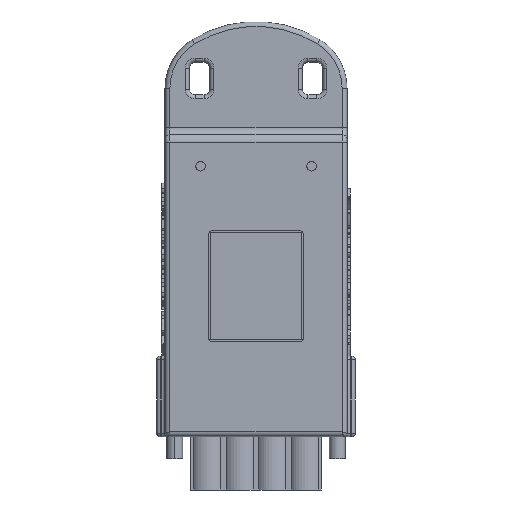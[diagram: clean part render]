
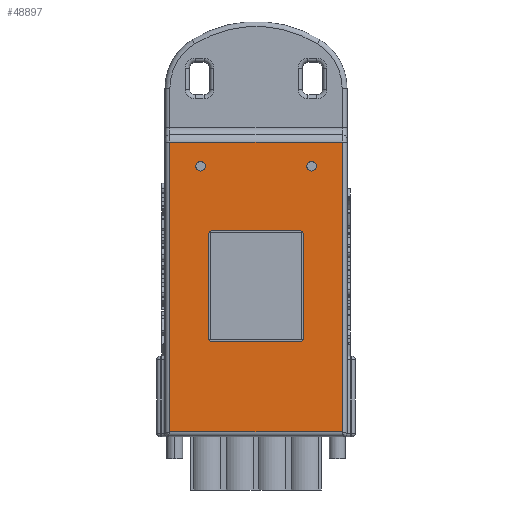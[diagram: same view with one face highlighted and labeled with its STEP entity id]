
A CAD part, front view. The second image highlights one B-rep face of the part: STEP entity #48897.
In plain terms, the highlighted planar face has unit normal (0, -1, 0).
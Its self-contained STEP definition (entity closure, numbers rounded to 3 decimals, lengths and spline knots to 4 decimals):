
#3871=DIRECTION('',(-1.,0.,0.));
#3872=VECTOR('',#3871,1.0581);
#3873=CARTESIAN_POINT('',(0.5291,-0.12,0.8345));
#3874=LINE('',#3873,#3872);
#3875=DIRECTION('',(0.,0.,-1.));
#3876=VECTOR('',#3875,1.7785);
#3877=CARTESIAN_POINT('',(0.5291,-0.12,0.8345));
#3878=LINE('',#3877,#3876);
#3879=DIRECTION('',(1.,0.,0.));
#3880=VECTOR('',#3879,1.0581);
#3881=CARTESIAN_POINT('',(-0.5291,-0.12,-0.944));
#3882=LINE('',#3881,#3880);
#3883=DIRECTION('',(0.,0.,1.));
#3884=VECTOR('',#3883,1.7785);
#3885=CARTESIAN_POINT('',(-0.5291,-0.12,-0.944));
#3886=LINE('',#3885,#3884);
#3887=CARTESIAN_POINT('',(0.3413,-0.12,0.6871));
#3888=DIRECTION('',(0.,-1.,0.));
#3889=DIRECTION('',(0.,0.,-1.));
#3890=AXIS2_PLACEMENT_3D('',#3887,#3888,#3889);
#3892=CARTESIAN_POINT('',(0.3413,-0.12,0.6871));
#3893=DIRECTION('',(0.,-1.,0.));
#3894=DIRECTION('',(0.,0.,1.));
#3895=AXIS2_PLACEMENT_3D('',#3892,#3893,#3894);
#3897=CARTESIAN_POINT('',(-0.3407,-0.12,0.6871));
#3898=DIRECTION('',(0.,-1.,0.));
#3899=DIRECTION('',(0.,0.,-1.));
#3900=AXIS2_PLACEMENT_3D('',#3897,#3898,#3899);
#3902=CARTESIAN_POINT('',(-0.3407,-0.12,0.6871));
#3903=DIRECTION('',(0.,-1.,0.));
#3904=DIRECTION('',(0.,0.,1.));
#3905=AXIS2_PLACEMENT_3D('',#3902,#3903,#3904);
#3907=DIRECTION('',(0.,0.,-1.));
#3908=VECTOR('',#3907,0.64);
#3909=CARTESIAN_POINT('',(-0.29,-0.12,0.27));
#3910=LINE('',#3909,#3908);
#3911=DIRECTION('',(1.,0.,0.));
#3912=VECTOR('',#3911,0.54);
#3913=CARTESIAN_POINT('',(-0.27,-0.12,-0.39));
#3914=LINE('',#3913,#3912);
#3915=DIRECTION('',(0.,0.,1.));
#3916=VECTOR('',#3915,0.64);
#3917=CARTESIAN_POINT('',(0.29,-0.12,-0.37));
#3918=LINE('',#3917,#3916);
#3919=DIRECTION('',(-1.,0.,0.));
#3920=VECTOR('',#3919,0.54);
#3921=CARTESIAN_POINT('',(0.27,-0.12,0.29));
#3922=LINE('',#3921,#3920);
#5614=CARTESIAN_POINT('',(-0.27,-0.12,0.27));
#5615=DIRECTION('',(0.,1.,0.));
#5616=DIRECTION('',(-1.,0.,0.));
#5617=AXIS2_PLACEMENT_3D('',#5614,#5615,#5616);
#5627=CARTESIAN_POINT('',(0.27,-0.12,0.27));
#5628=DIRECTION('',(0.,1.,0.));
#5629=DIRECTION('',(0.,0.,1.));
#5630=AXIS2_PLACEMENT_3D('',#5627,#5628,#5629);
#5692=CARTESIAN_POINT('',(0.27,-0.12,-0.37));
#5693=DIRECTION('',(0.,1.,0.));
#5694=DIRECTION('',(1.,0.,0.));
#5695=AXIS2_PLACEMENT_3D('',#5692,#5693,#5694);
#5705=CARTESIAN_POINT('',(-0.27,-0.12,-0.37));
#5706=DIRECTION('',(0.,1.,0.));
#5707=DIRECTION('',(0.,0.,-1.));
#5708=AXIS2_PLACEMENT_3D('',#5705,#5706,#5707);
#36563=CARTESIAN_POINT('',(0.5291,-0.12,0.8345));
#36564=CARTESIAN_POINT('',(-0.5291,-0.12,0.8345));
#36565=VERTEX_POINT('',#36563);
#36566=VERTEX_POINT('',#36564);
#43563=CARTESIAN_POINT('',(-0.29,-0.12,0.27));
#43564=CARTESIAN_POINT('',(-0.27,-0.12,0.29));
#43565=VERTEX_POINT('',#43563);
#43566=VERTEX_POINT('',#43564);
#43765=CARTESIAN_POINT('',(-0.5291,-0.12,-0.944));
#43766=CARTESIAN_POINT('',(0.5291,-0.12,-0.944));
#43767=VERTEX_POINT('',#43765);
#43768=VERTEX_POINT('',#43766);
#43803=CARTESIAN_POINT('',(-0.27,-0.12,-0.39));
#43804=VERTEX_POINT('',#43803);
#43805=CARTESIAN_POINT('',(-0.29,-0.12,-0.37));
#43806=VERTEX_POINT('',#43805);
#43811=CARTESIAN_POINT('',(0.29,-0.12,-0.37));
#43812=VERTEX_POINT('',#43811);
#43813=CARTESIAN_POINT('',(0.27,-0.12,-0.39));
#43814=VERTEX_POINT('',#43813);
#43819=CARTESIAN_POINT('',(0.27,-0.12,0.29));
#43820=VERTEX_POINT('',#43819);
#43821=CARTESIAN_POINT('',(0.29,-0.12,0.27));
#43822=VERTEX_POINT('',#43821);
#45203=CARTESIAN_POINT('',(0.3413,-0.12,0.6576));
#45204=CARTESIAN_POINT('',(0.3413,-0.12,0.7166));
#45205=VERTEX_POINT('',#45203);
#45206=VERTEX_POINT('',#45204);
#45207=CARTESIAN_POINT('',(-0.3407,-0.12,0.6576));
#45208=CARTESIAN_POINT('',(-0.3407,-0.12,0.7166));
#45209=VERTEX_POINT('',#45207);
#45210=VERTEX_POINT('',#45208);
#48854=CARTESIAN_POINT('',(0.,-0.12,-0.05));
#48855=DIRECTION('',(0.,1.,0.));
#48856=DIRECTION('',(1.,0.,0.));
#48857=AXIS2_PLACEMENT_3D('',#48854,#48855,#48856);
#48858=PLANE('',#48857);
#48860=ORIENTED_EDGE('',*,*,#48859,.F.);
#48861=ORIENTED_EDGE('',*,*,#48846,.T.);
#48862=ORIENTED_EDGE('',*,*,#46763,.F.);
#48864=ORIENTED_EDGE('',*,*,#48863,.T.);
#48865=EDGE_LOOP('',(#48860,#48861,#48862,#48864));
#48866=FACE_OUTER_BOUND('',#48865,.F.);
#48868=ORIENTED_EDGE('',*,*,#48867,.T.);
#48870=ORIENTED_EDGE('',*,*,#48869,.T.);
#48871=EDGE_LOOP('',(#48868,#48870));
#48872=FACE_BOUND('',#48871,.F.);
#48874=ORIENTED_EDGE('',*,*,#48873,.T.);
#48876=ORIENTED_EDGE('',*,*,#48875,.T.);
#48877=EDGE_LOOP('',(#48874,#48876));
#48878=FACE_BOUND('',#48877,.F.);
#48880=ORIENTED_EDGE('',*,*,#48879,.T.);
#48882=ORIENTED_EDGE('',*,*,#48881,.F.);
#48884=ORIENTED_EDGE('',*,*,#48883,.T.);
#48886=ORIENTED_EDGE('',*,*,#48885,.F.);
#48888=ORIENTED_EDGE('',*,*,#48887,.T.);
#48890=ORIENTED_EDGE('',*,*,#48889,.F.);
#48892=ORIENTED_EDGE('',*,*,#48891,.T.);
#48894=ORIENTED_EDGE('',*,*,#48893,.F.);
#48895=EDGE_LOOP('',(#48880,#48882,#48884,#48886,#48888,#48890,#48892,#48894));
#48896=FACE_BOUND('',#48895,.F.);
#48897=ADVANCED_FACE('',(#48866,#48872,#48878,#48896),#48858,.F.);
#3891=CIRCLE('',#3890,0.0295);
#3896=CIRCLE('',#3895,0.0295);
#3901=CIRCLE('',#3900,0.0295);
#3906=CIRCLE('',#3905,0.0295);
#5618=CIRCLE('',#5617,0.02);
#5631=CIRCLE('',#5630,0.02);
#5696=CIRCLE('',#5695,0.02);
#5709=CIRCLE('',#5708,0.02);
#46763=EDGE_CURVE('',#43767,#43768,#3882,.T.);
#48846=EDGE_CURVE('',#36565,#43768,#3878,.T.);
#48859=EDGE_CURVE('',#36565,#36566,#3874,.T.);
#48863=EDGE_CURVE('',#43767,#36566,#3886,.T.);
#48867=EDGE_CURVE('',#45205,#45206,#3891,.T.);
#48869=EDGE_CURVE('',#45206,#45205,#3896,.T.);
#48873=EDGE_CURVE('',#45209,#45210,#3901,.T.);
#48875=EDGE_CURVE('',#45210,#45209,#3906,.T.);
#48879=EDGE_CURVE('',#43565,#43806,#3910,.T.);
#48881=EDGE_CURVE('',#43804,#43806,#5709,.T.);
#48883=EDGE_CURVE('',#43804,#43814,#3914,.T.);
#48885=EDGE_CURVE('',#43812,#43814,#5696,.T.);
#48887=EDGE_CURVE('',#43812,#43822,#3918,.T.);
#48889=EDGE_CURVE('',#43820,#43822,#5631,.T.);
#48891=EDGE_CURVE('',#43820,#43566,#3922,.T.);
#48893=EDGE_CURVE('',#43565,#43566,#5618,.T.);
